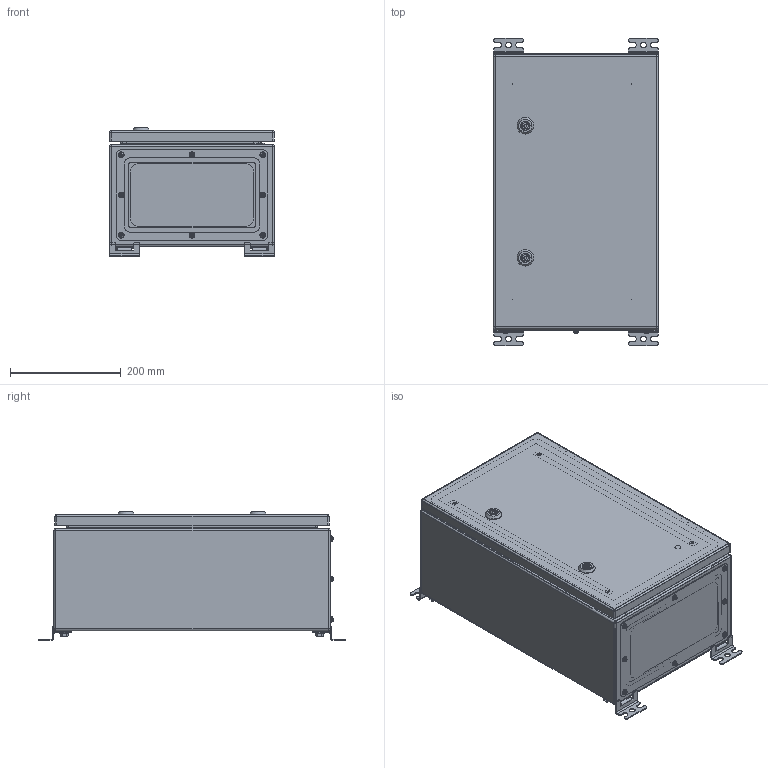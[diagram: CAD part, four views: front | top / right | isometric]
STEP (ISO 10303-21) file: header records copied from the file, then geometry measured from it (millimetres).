
FILE_DESCRIPTION(('STEP AP242'), '1');
FILE_NAME('400 ﾙﾌﾏ-1 (IP-56)', '', ('UNSPECIFIED'), ('UNSPECIFIED'), 'C3D Converter', 'C3D Toolkit', '');
FILE_SCHEMA(('AP242_MANAGED_MODEL_BASED_3D_ENGINEERING_MIM_LF { 1 0 10303 442 1 1 4 }'));
Length unit declared in the file: millimetre
Products named in the file (42): ЩМП-1-Л СБ; 410-Л; 420; 421; 411; 430-Л; 431-Л; 490; 491; 401.01; 440; 441; 402; 403
Assembly tree (117 placements, depth 4):
  ЩМП-1-Л СБ
    410-Л
      420
        421
        (unnamed)  x4
        (unnamed)
      411
      430-Л
        431-Л
        (unnamed)  x8
    490  x2
      491
      (unnamed)
      (unnamed)
      (unnamed)
      (unnamed)
      (unnamed)
    490  x2
      491
      (unnamed)
      (unnamed)
      (unnamed)
      (unnamed)
      (unnamed)
    401.01
    (unnamed)  x4
    (unnamed)  x4
    (unnamed)  x4
    (unnamed)  x4
    (unnamed)  x2
      (unnamed)
      (unnamed)
      (unnamed)
    (unnamed)  x12
    440
      441
      (unnamed)
      (unnamed)  x4
      (unnamed)  x2
    402  x2
    (unnamed)  x4
    (unnamed)  x4
    (unnamed)  x2
      (unnamed)
      (unnamed)
      (unnamed)
      (unnamed)
      (unnamed)
    (unnamed)  x2
    403
    (unnamed)  x8
    (unnamed)  x8
Bounding box: 300 x 556 x 233.1 mm (x, y, z)
Volume: 1565401.6 mm3; surface area: 1861188.2 mm2
Topology: 129 solids, 129 shells, 2545 faces, 6062 edges, 3854 vertices
Faces by surface type: plane 1435, cylinder 730, cone 228, extrusion 54, sphere 36, bspline 32, torus 30
Full cylindrical faces by diameter (mm): 0.5 x4, 2.6 x8, 3.5 x60, 4.134 x8, 4.2 x4, 4.917 x4, 5 x14, 5.5 x12, 5.8 x2, 6 x24, 6.38 x8, 6.4 x12, 6.647 x8, 7 x6, 7.3 x4, 7.5 x6, 7.74 x8, 8 x10, 8.376 x4, 8.4 x8, 8.5 x24, 8.7 x8, 9 x8, 10 x16, 10.4 x2, 10.5 x6, 11 x4, 11.4 x1, 11.5 x5, 12 x2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
Entity records: 67085 total; most frequent: CARTESIAN_POINT 35399, DIRECTION 5148, ORIENTED_EDGE 4924, EDGE_CURVE 2462, AXIS2_PLACEMENT_3D 1902, VERTEX_POINT 1658, EDGE_LOOP 1420, VECTOR 1344
